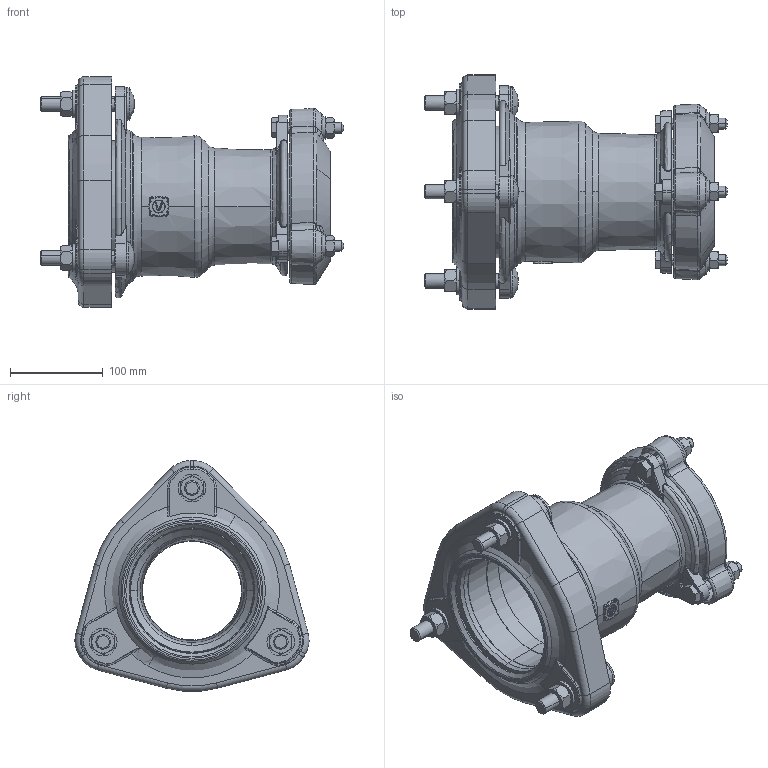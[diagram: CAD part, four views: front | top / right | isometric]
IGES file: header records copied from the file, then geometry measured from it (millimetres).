
Global section: file name: No Iges File Name specified; native system: AutoDesk Inventor R12.0; preprocessor: AutoDesk Inventor Iges Exporter R12.0; date: 20120523.095619; units: millimetre
Bounding box: 327 x 252.11 x 248.25 mm (x, y, z)
Volume: 1525654.8 mm3; surface area: 490426.6 mm2
Topology: 1 solids, 1 shells, 1057 faces, 2800 edges, 1762 vertices
Faces by surface type: plane 262, bspline 213, revolution 176, cylinder 148, cone 140, torus 118
